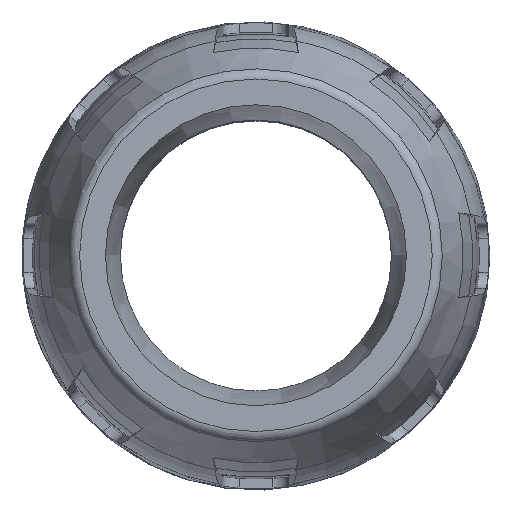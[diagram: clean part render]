
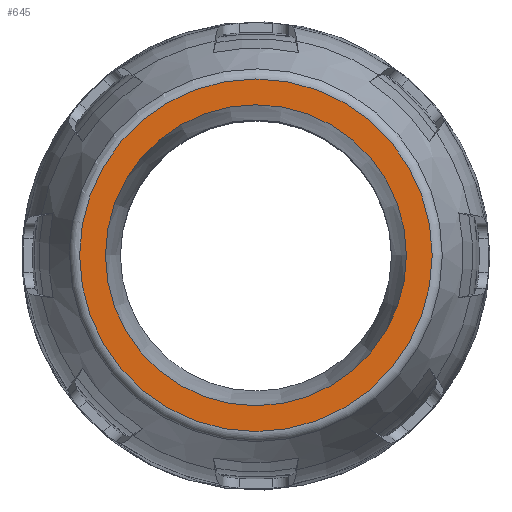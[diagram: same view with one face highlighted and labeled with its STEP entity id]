
A CAD part, top view. The second image highlights one B-rep face of the part: STEP entity #645.
In plain terms, the highlighted planar face has unit normal (0, 0, 1).
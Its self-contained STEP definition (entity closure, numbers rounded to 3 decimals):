
#645 = ADVANCED_FACE( '', ( #1628, #1629 ), #1630, .F. );
#1628 = FACE_OUTER_BOUND( '', #3181, .T. );
#1629 = FACE_BOUND( '', #3182, .T. );
#1630 = PLANE( '', #3183 );
#3181 = EDGE_LOOP( '', ( #5517 ) );
#3182 = EDGE_LOOP( '', ( #5518 ) );
#3183 = AXIS2_PLACEMENT_3D( '', #5519, #5520, #5521 );
#5517 = ORIENTED_EDGE( '', *, *, #9150, .F. );
#5518 = ORIENTED_EDGE( '', *, *, #9151, .F. );
#5519 = CARTESIAN_POINT( '', ( -34.317, 0., 28.459 ) );
#5520 = DIRECTION( '', ( 0., 0., -1. ) );
#5521 = DIRECTION( '', ( -1., 0., 0. ) );
#9150 = EDGE_CURVE( '', #11065, #11065, #11066, .F. );
#9151 = EDGE_CURVE( '', #11067, #11067, #11068, .T. );
#11065 = VERTEX_POINT( '', #14303 );
#11066 = CIRCLE( '', #14304, 32.917 );
#11067 = VERTEX_POINT( '', #14305 );
#11068 = CIRCLE( '', #14306, 28.098 );
#14303 = CARTESIAN_POINT( '', ( -32.917, 0., 28.459 ) );
#14304 = AXIS2_PLACEMENT_3D( '', #17974, #17975, #17976 );
#14305 = CARTESIAN_POINT( '', ( -28.098, 0., 28.459 ) );
#14306 = AXIS2_PLACEMENT_3D( '', #17977, #17978, #17979 );
#17974 = CARTESIAN_POINT( '', ( 0., 0., 28.459 ) );
#17975 = DIRECTION( '', ( 0., 0., 1. ) );
#17976 = DIRECTION( '', ( -1., 0., 0. ) );
#17977 = CARTESIAN_POINT( '', ( 0., 0., 28.459 ) );
#17978 = DIRECTION( '', ( 0., 0., 1. ) );
#17979 = DIRECTION( '', ( -1., 0., 0. ) );
